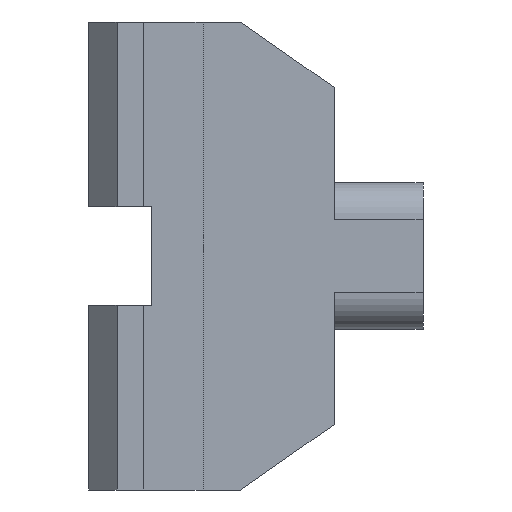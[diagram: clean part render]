
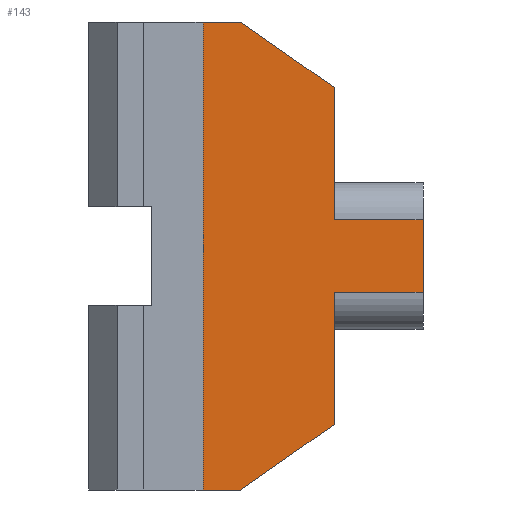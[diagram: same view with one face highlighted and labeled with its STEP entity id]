
A CAD part, left-side view. The second image highlights one B-rep face of the part: STEP entity #143.
In plain terms, the highlighted planar face has unit normal (-1, 0, 0).
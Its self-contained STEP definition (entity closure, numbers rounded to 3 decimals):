
#143=ADVANCED_FACE('',(#214),#182,.T.);
#182=PLANE('',#886);
#214=FACE_OUTER_BOUND('',#252,.T.);
#252=EDGE_LOOP('',(#372,#373,#374,#375,#376,#377,#378,#379,#380,#381));
#372=ORIENTED_EDGE('',*,*,#637,.F.);
#373=ORIENTED_EDGE('',*,*,#638,.T.);
#374=ORIENTED_EDGE('',*,*,#615,.F.);
#375=ORIENTED_EDGE('',*,*,#636,.F.);
#376=ORIENTED_EDGE('',*,*,#608,.T.);
#377=ORIENTED_EDGE('',*,*,#639,.T.);
#378=ORIENTED_EDGE('',*,*,#640,.T.);
#379=ORIENTED_EDGE('',*,*,#641,.T.);
#380=ORIENTED_EDGE('',*,*,#604,.T.);
#381=ORIENTED_EDGE('',*,*,#642,.T.);
#526=VERTEX_POINT('',#1196);
#527=VERTEX_POINT('',#1198);
#530=VERTEX_POINT('',#1205);
#531=VERTEX_POINT('',#1207);
#535=VERTEX_POINT('',#1219);
#536=VERTEX_POINT('',#1220);
#551=VERTEX_POINT('',#1261);
#552=VERTEX_POINT('',#1262);
#553=VERTEX_POINT('',#1265);
#554=VERTEX_POINT('',#1267);
#604=EDGE_CURVE('',#527,#526,#705,.T.);
#608=EDGE_CURVE('',#531,#530,#708,.T.);
#615=EDGE_CURVE('',#535,#536,#715,.T.);
#636=EDGE_CURVE('',#531,#535,#736,.T.);
#637=EDGE_CURVE('',#551,#552,#737,.T.);
#638=EDGE_CURVE('',#551,#536,#738,.T.);
#639=EDGE_CURVE('',#530,#553,#739,.T.);
#640=EDGE_CURVE('',#553,#554,#740,.T.);
#641=EDGE_CURVE('',#554,#527,#741,.T.);
#642=EDGE_CURVE('',#526,#552,#742,.T.);
#705=LINE('',#1197,#799);
#708=LINE('',#1206,#802);
#715=LINE('',#1218,#809);
#736=LINE('',#1258,#830);
#737=LINE('',#1260,#831);
#738=LINE('',#1263,#832);
#739=LINE('',#1264,#833);
#740=LINE('',#1266,#834);
#741=LINE('',#1268,#835);
#742=LINE('',#1269,#836);
#799=VECTOR('',#979,1.);
#802=VECTOR('',#986,1.);
#809=VECTOR('',#995,1.);
#830=VECTOR('',#1022,1.);
#831=VECTOR('',#1025,1.);
#832=VECTOR('',#1026,1.);
#833=VECTOR('',#1027,1.);
#834=VECTOR('',#1028,1.);
#835=VECTOR('',#1029,1.);
#836=VECTOR('',#1030,1.);
#886=AXIS2_PLACEMENT_3D('',#1270,#1031,#1032);
#979=DIRECTION('',(0.,0.,1.));
#986=DIRECTION('',(0.,-1.,0.));
#995=DIRECTION('',(0.,-1.,0.));
#1022=DIRECTION('',(0.,0.,1.));
#1025=DIRECTION('',(0.,0.,-1.));
#1026=DIRECTION('',(0.,0.819,0.573));
#1027=DIRECTION('',(0.,-0.819,0.573));
#1028=DIRECTION('',(0.,0.,1.));
#1029=DIRECTION('',(0.,-1.,0.));
#1030=DIRECTION('',(0.,1.,0.));
#1031=DIRECTION('',(-1.,0.,0.));
#1032=DIRECTION('',(0.,0.,1.));
#1196=CARTESIAN_POINT('',(-13.1,-23.5,18.85));
#1197=CARTESIAN_POINT('',(-13.1,-23.5,0.));
#1198=CARTESIAN_POINT('',(-13.1,-23.5,11.15));
#1205=CARTESIAN_POINT('',(-13.1,-4.,-10.));
#1206=CARTESIAN_POINT('',(-13.1,0.,-10.));
#1207=CARTESIAN_POINT('',(-13.1,0.,-10.));
#1218=CARTESIAN_POINT('',(-13.1,3.2,40.));
#1219=CARTESIAN_POINT('',(-13.1,0.,40.));
#1220=CARTESIAN_POINT('',(-13.1,-4.,40.));
#1258=CARTESIAN_POINT('',(-13.1,0.,30.));
#1260=CARTESIAN_POINT('',(-13.1,-14.,40.));
#1261=CARTESIAN_POINT('',(-13.1,-14.,33.));
#1262=CARTESIAN_POINT('',(-13.1,-14.,18.85));
#1263=CARTESIAN_POINT('',(-13.1,-20.107,28.725));
#1264=CARTESIAN_POINT('',(-13.1,-6.013,-8.591));
#1265=CARTESIAN_POINT('',(-13.1,-14.,-3.));
#1266=CARTESIAN_POINT('',(-13.1,-14.,-10.));
#1267=CARTESIAN_POINT('',(-13.1,-14.,11.15));
#1268=CARTESIAN_POINT('',(-13.1,-23.5,11.15));
#1269=CARTESIAN_POINT('',(-13.1,-14.,18.85));
#1270=CARTESIAN_POINT('',(-13.1,0.,0.));
